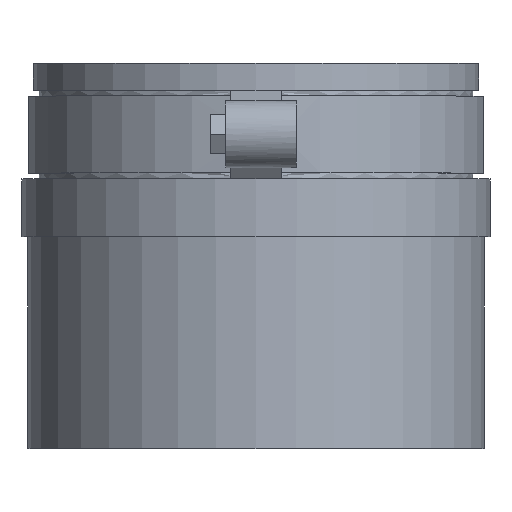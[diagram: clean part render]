
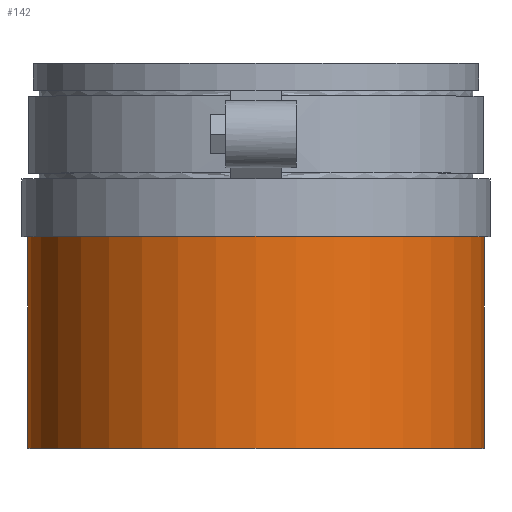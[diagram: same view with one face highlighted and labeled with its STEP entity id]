
A CAD part, top view. The second image highlights one B-rep face of the part: STEP entity #142.
In plain terms, the highlighted cylindrical face has radius 45.65 mm (diameter 91.3 mm), a full revolution.
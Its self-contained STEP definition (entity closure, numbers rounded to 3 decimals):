
#142 = ADVANCED_FACE( '', ( #304, #305 ), #306, .T. );
#304 = FACE_OUTER_BOUND( '', #487, .T. );
#305 = FACE_OUTER_BOUND( '', #488, .T. );
#306 = CYLINDRICAL_SURFACE( '', #489, 45.65 );
#487 = EDGE_LOOP( '', ( #859 ) );
#488 = EDGE_LOOP( '', ( #860 ) );
#489 = AXIS2_PLACEMENT_3D( '', #861, #862, #863 );
#859 = ORIENTED_EDGE( '', *, *, #1082, .F. );
#860 = ORIENTED_EDGE( '', *, *, #1175, .T. );
#861 = CARTESIAN_POINT( '', ( 0., 0., 0. ) );
#862 = DIRECTION( '', ( 0., 1., 0. ) );
#863 = DIRECTION( '', ( 0., 0., -1. ) );
#1082 = EDGE_CURVE( '', #1310, #1310, #1311, .T. );
#1175 = EDGE_CURVE( '', #1441, #1441, #1442, .T. );
#1310 = VERTEX_POINT( '', #1623 );
#1311 = CIRCLE( '', #1624, 45.65 );
#1441 = VERTEX_POINT( '', #1836 );
#1442 = CIRCLE( '', #1837, 45.65 );
#1623 = CARTESIAN_POINT( '', ( 0., 0., -45.65 ) );
#1624 = AXIS2_PLACEMENT_3D( '', #1936, #1937, #1938 );
#1836 = CARTESIAN_POINT( '', ( 0., 42.35, -45.65 ) );
#1837 = AXIS2_PLACEMENT_3D( '', #2039, #2040, #2041 );
#1936 = CARTESIAN_POINT( '', ( 0., 0., 0. ) );
#1937 = DIRECTION( '', ( 0., -1., 0. ) );
#1938 = DIRECTION( '', ( 0., 0., -1. ) );
#2039 = CARTESIAN_POINT( '', ( 0., 42.35, 0. ) );
#2040 = DIRECTION( '', ( 0., -1., 0. ) );
#2041 = DIRECTION( '', ( 0., 0., -1. ) );
